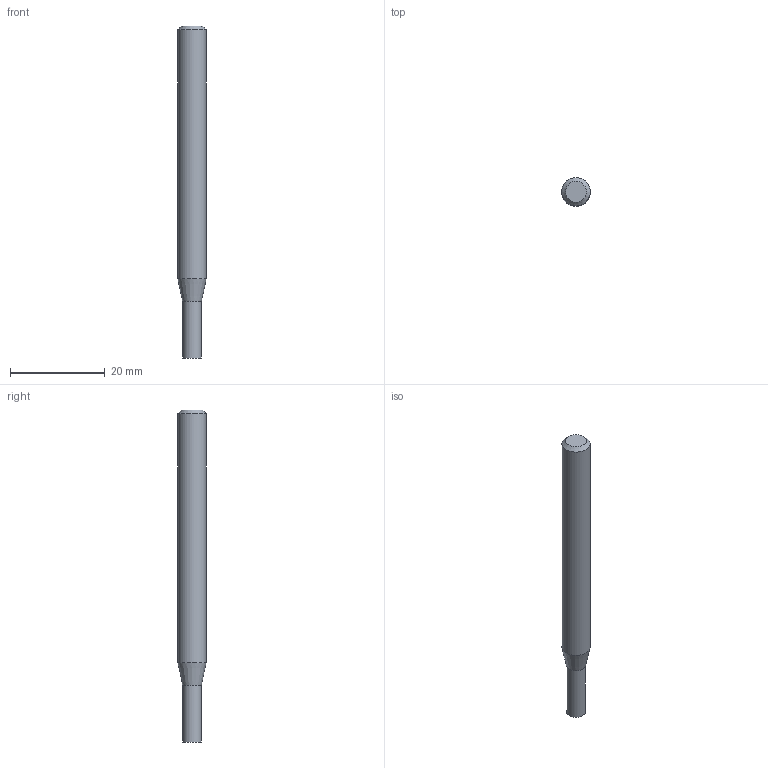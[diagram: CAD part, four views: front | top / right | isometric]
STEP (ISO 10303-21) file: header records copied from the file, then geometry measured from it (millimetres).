
FILE_DESCRIPTION((''),'2;1');
FILE_NAME('C:\Users\nsx150\AppData\Local\Temp\Mastercam 2021\W9Z147XDNF\TEMP.step','2021-04-08T14:45:47',(''),(''),'STEP Write','Mastercam 2021 ... CNC Software, Inc.','');
FILE_SCHEMA(('AUTOMOTIVE_DESIGN'));
Length unit declared in the file: millimetre
Products named in the file (1): None
Bounding box: 6 x 6 x 70 mm (x, y, z)
Volume: 1745.8 mm3; surface area: 1287.2 mm2
Topology: 2 solids, 2 shells, 8 faces, 10 edges, 6 vertices
Faces by surface type: plane 4, cylinder 2, cone 2
Full cylindrical faces by diameter (mm): 4 x1, 6 x1
Entity records: 190 total; most frequent: DIRECTION 32, CARTESIAN_POINT 22, AXIS2_PLACEMENT_3D 16, ORIENTED_EDGE 12, EDGE_LOOP 12, STYLED_ITEM 11, ADVANCED_FACE 8, VERTEX_POINT 6
